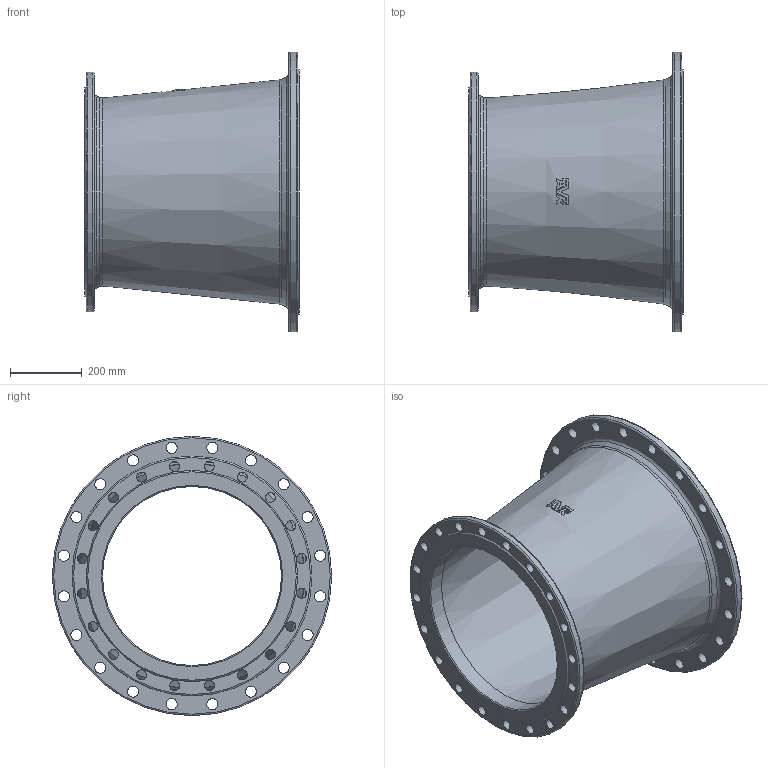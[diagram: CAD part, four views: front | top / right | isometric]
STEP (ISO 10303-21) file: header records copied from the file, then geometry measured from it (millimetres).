
FILE_DESCRIPTION (( 'STEP AP203' ), '1' );
FILE_NAME ('O_712_2210_DN600_DN500_0X_REV01.step', '2024-08-08T09:37:57', ( '' ), ( '' ), 'SwSTEP 2.0', 'SolidWorks 2022', '' );
FILE_SCHEMA (( 'CONFIG_CONTROL_DESIGN' ));
Length unit declared in the file: millimetre
Products named in the file (1): O_712_2210_DN600_DN500_0X_REV01
Bounding box: 600 x 780 x 780 mm (x, y, z)
Volume: 21044128.7 mm3; surface area: 2783353.7 mm2
Topology: 1 solids, 1 shells, 109 faces, 324 edges, 225 vertices
Faces by surface type: cylinder 46, plane 41, cone 12, torus 10
Full cylindrical faces by diameter (mm): 28 x20, 31 x20, 500 x1, 600 x1, 670 x1, 780 x1
Entity records: 3366 total; most frequent: CARTESIAN_POINT 693, DIRECTION 537, ORIENTED_EDGE 438, EDGE_LOOP 261, AXIS2_PLACEMENT_3D 250, EDGE_CURVE 219, VERTEX_POINT 182, FACE_OUTER_BOUND 163
